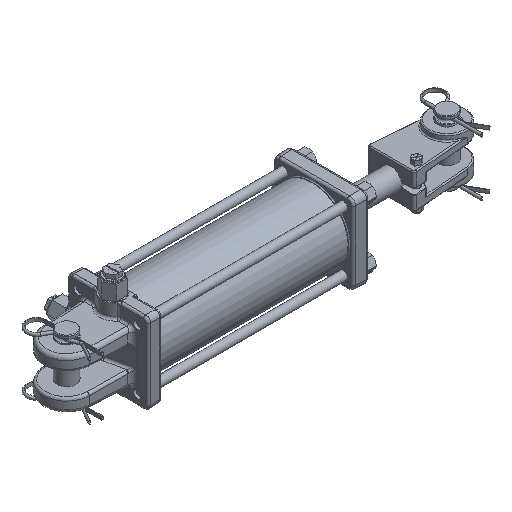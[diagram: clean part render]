
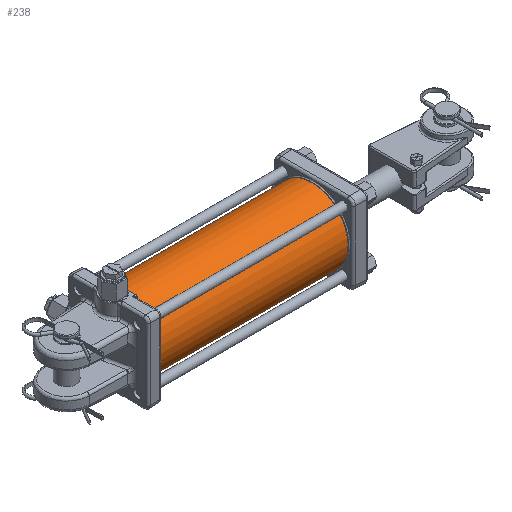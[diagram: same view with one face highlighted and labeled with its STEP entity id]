
A CAD part, isometric view. The second image highlights one B-rep face of the part: STEP entity #238.
In plain terms, the highlighted cylindrical face has radius 49.212 mm (diameter 98.425 mm), a full revolution.
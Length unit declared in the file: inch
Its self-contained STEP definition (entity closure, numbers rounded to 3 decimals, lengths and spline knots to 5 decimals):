
#124=CARTESIAN_POINT('',(0.,1.9375,0.0));
#125=VERTEX_POINT('',#124);
#126=CARTESIAN_POINT('',(0.,0.0,0.0));
#127=DIRECTION('',(1.0,0.0,0.0));
#128=DIRECTION('',(0.0,1.0,0.0));
#129=AXIS2_PLACEMENT_3D('',#126,#127,#128);
#130=CIRCLE('',#129,1.9375);
#131=EDGE_CURVE('',#125,#125,#130,.T.);
#212=CARTESIAN_POINT('',(-10.0625,1.9375,0.0));
#213=VERTEX_POINT('',#212);
#214=CARTESIAN_POINT('',(-10.0625,0.0,0.0));
#215=DIRECTION('',(1.0,0.0,0.0));
#216=DIRECTION('',(0.0,1.0,0.0));
#217=AXIS2_PLACEMENT_3D('',#214,#215,#216);
#218=CIRCLE('',#217,1.9375);
#219=EDGE_CURVE('',#213,#213,#218,.T.);
#227=CARTESIAN_POINT('',(-5.03125,0.0,0.0));
#228=DIRECTION('',(1.0,0.0,0.0));
#229=DIRECTION('',(0.0,1.0,0.0));
#230=AXIS2_PLACEMENT_3D('',#227,#228,#229);
#231=CYLINDRICAL_SURFACE('',#230,1.9375);
#232=ORIENTED_EDGE('',*,*,#131,.F.);
#233=EDGE_LOOP('',(#232));
#234=FACE_OUTER_BOUND('',#233,.T.);
#235=ORIENTED_EDGE('',*,*,#219,.T.);
#236=EDGE_LOOP('',(#235));
#237=FACE_BOUND('',#236,.T.);
#238=ADVANCED_FACE('',(#234,#237),#231,.T.);
